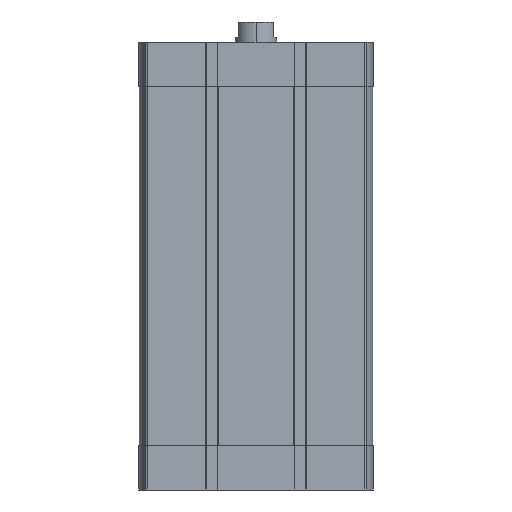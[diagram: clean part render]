
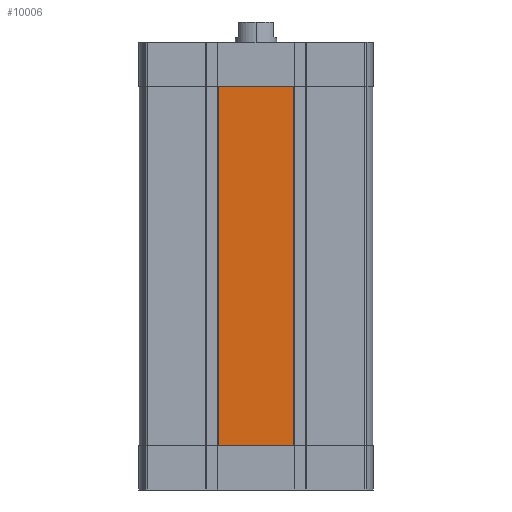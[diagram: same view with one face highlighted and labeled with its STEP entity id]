
A CAD part, left-side view. The second image highlights one B-rep face of the part: STEP entity #10006.
In plain terms, the highlighted planar face has unit normal (-1, 0, 0).
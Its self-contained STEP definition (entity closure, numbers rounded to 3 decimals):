
#638 = CARTESIAN_POINT ( 'NONE',  ( -56.5, -18.345, -21.5 ) ) ;
#874 = DIRECTION ( 'NONE',  ( 0., 0., 1. ) ) ;
#966 = CARTESIAN_POINT ( 'NONE',  ( -56.5, -18.345, -195.5 ) ) ;
#1066 = LINE ( 'NONE', #966, #3108 ) ;
#1097 = DIRECTION ( 'NONE',  ( 0., -1., 0. ) ) ;
#1859 = EDGE_CURVE ( 'NONE', #6286, #18015, #12948, .T. ) ;
#2011 = DIRECTION ( 'NONE',  ( 0., 0., 1. ) ) ;
#2936 = CARTESIAN_POINT ( 'NONE',  ( -56.5, 18.345, -21.5 ) ) ;
#3108 = VECTOR ( 'NONE', #874, 1000. ) ;
#3665 = AXIS2_PLACEMENT_3D ( 'NONE', #20036, #7491, #16671 ) ;
#3704 = ORIENTED_EDGE ( 'NONE', *, *, #9496, .F. ) ;
#3862 = CARTESIAN_POINT ( 'NONE',  ( -56.5, 18.345, -195.5 ) ) ;
#4528 = EDGE_CURVE ( 'NONE', #18015, #19406, #1066, .T. ) ;
#6286 = VERTEX_POINT ( 'NONE', #6873 ) ;
#6415 = ORIENTED_EDGE ( 'NONE', *, *, #1859, .T. ) ;
#6655 = DIRECTION ( 'NONE',  ( 0., -1., 0. ) ) ;
#6873 = CARTESIAN_POINT ( 'NONE',  ( -56.5, 18.345, -195.5 ) ) ;
#7491 = DIRECTION ( 'NONE',  ( -1., 0., 0. ) ) ;
#7555 = EDGE_LOOP ( 'NONE', ( #14502, #3704, #6415, #18355 ) ) ;
#8259 = CARTESIAN_POINT ( 'NONE',  ( -56.5, 18.345, -21.5 ) ) ;
#8383 = LINE ( 'NONE', #3862, #15036 ) ;
#8754 = FACE_OUTER_BOUND ( 'NONE', #7555, .T. ) ;
#9496 = EDGE_CURVE ( 'NONE', #6286, #16378, #8383, .T. ) ;
#10006 = ADVANCED_FACE ( 'NONE', ( #8754 ), #13389, .T. ) ;
#10128 = CARTESIAN_POINT ( 'NONE',  ( -56.5, -18.345, -195.5 ) ) ;
#11188 = CARTESIAN_POINT ( 'NONE',  ( -56.5, 18.345, -195.5 ) ) ;
#12948 = LINE ( 'NONE', #11188, #16777 ) ;
#13389 = PLANE ( 'NONE',  #3665 ) ;
#13928 = VECTOR ( 'NONE', #1097, 1000. ) ;
#14502 = ORIENTED_EDGE ( 'NONE', *, *, #17742, .F. ) ;
#15036 = VECTOR ( 'NONE', #2011, 1000. ) ;
#16378 = VERTEX_POINT ( 'NONE', #8259 ) ;
#16671 = DIRECTION ( 'NONE',  ( 0., 0., 1. ) ) ;
#16777 = VECTOR ( 'NONE', #6655, 1000. ) ;
#17742 = EDGE_CURVE ( 'NONE', #16378, #19406, #18577, .T. ) ;
#18015 = VERTEX_POINT ( 'NONE', #10128 ) ;
#18355 = ORIENTED_EDGE ( 'NONE', *, *, #4528, .T. ) ;
#18577 = LINE ( 'NONE', #2936, #13928 ) ;
#19406 = VERTEX_POINT ( 'NONE', #638 ) ;
#20036 = CARTESIAN_POINT ( 'NONE',  ( -56.5, 18.345, -195.5 ) ) ;
